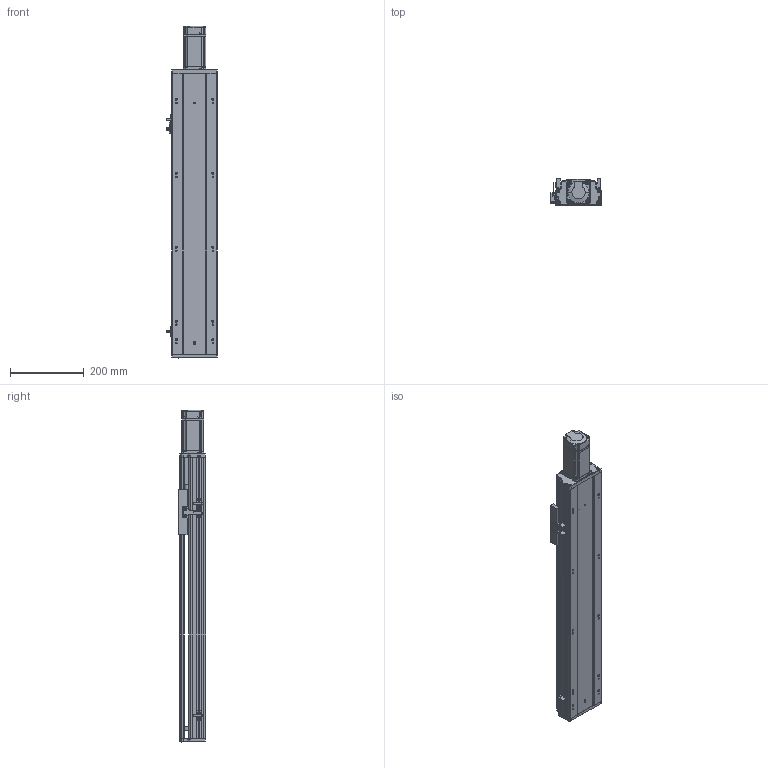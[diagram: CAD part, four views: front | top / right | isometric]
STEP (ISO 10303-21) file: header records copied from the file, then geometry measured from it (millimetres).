
FILE_DESCRIPTION (( 'STEP AP203' ), '1' );
FILE_NAME ('RY120Q-L1610-500-MK.SLDASM_0500.step', '2021-05-19T01:44:48', ( '盈信电脑' ), ( '东莞市道滘镇水果街19号' ), 'SwSTEP 2.0', 'SolidWorks 2016', '' );
FILE_SCHEMA (( 'CONFIG_CONTROL_DESIGN' ));
Length unit declared in the file: millimetre
Products named in the file (14): RY120-500-MK倰第菁釱_0500; 侂狟400W侜督萇儂; 15; 鞠褒坶踡蹟譫BK12 ; RY120-500-MK倰第奻裔啣_0500; 滅袉蝶18-10; RY120铝滑块16丝杆（FK12）; 滅袉蝶18-15; RY120外置感应片(140共用）; RY120QGB-1.8; 覜茼ん672; RY120綴裔啣; RY120Q-L1610-500-MK.SLDASM_0500; RY120萇儂釱FK12
Assembly tree (16 placements, depth 3):
  RY120Q-L1610-500-MK.SLDASM_0500
    RY120-500-MK倰第菁釱_0500
    RY120-500-MK倰第奻裔啣_0500
    侂狟400W侜督萇儂
      15
    鞠褒坶踡蹟譫BK12 
    RY120綴裔啣
    覜茼ん672  x3
    滅袉蝶18-10
    滅袉蝶18-15  x2
    RY120外置感应片(140共用）
    RY120QGB-1.8
    RY120铝滑块16丝杆（FK12）
    RY120萇儂釱FK12
Bounding box: 135.7 x 74 x 898.5 mm (x, y, z)
Volume: 2530839.4 mm3; surface area: 858010.2 mm2
Topology: 16 solids, 16 shells, 2166 faces, 5939 edges, 3794 vertices
Faces by surface type: plane 1009, cylinder 829, cone 227, bspline 101
Entity records: 71011 total; most frequent: CARTESIAN_POINT 19745, ORIENTED_EDGE 10630, DIRECTION 10035, EDGE_CURVE 5315, VERTEX_POINT 3462, AXIS2_PLACEMENT_3D 3448, LINE 3139, VECTOR 3139
